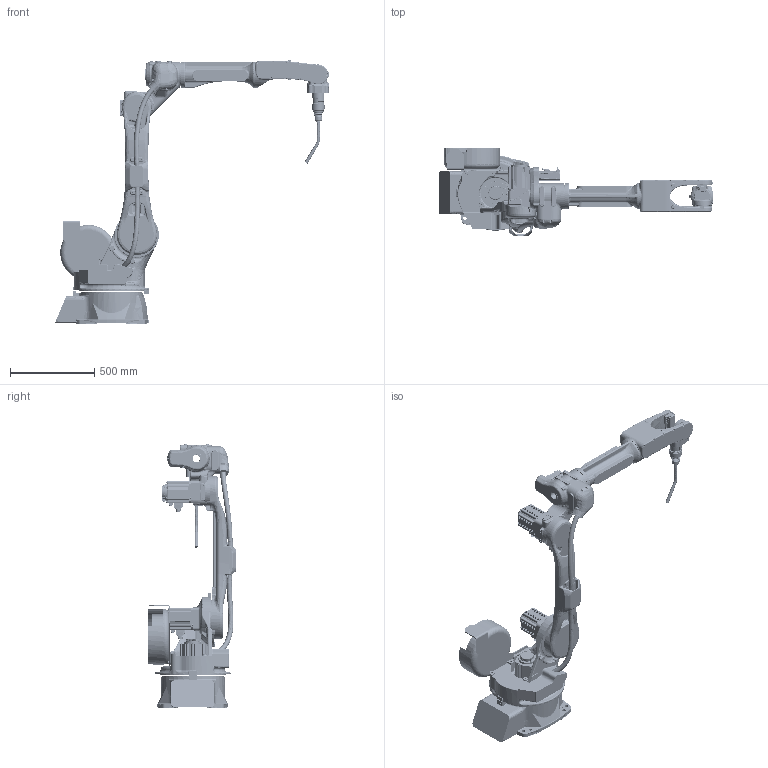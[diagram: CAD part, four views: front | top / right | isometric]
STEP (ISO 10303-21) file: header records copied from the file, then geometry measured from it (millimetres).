
FILE_DESCRIPTION(/* description */ (''),/* implementation_level */ '2;1');
FILE_NAME(/* name */ 'MR12-2010焊接-阿波罗焊枪.stp',/* time_stamp */ '2024-07-03T12:14:27+08:00',/* author */ (''),/* organization */ (''),/* preprocessor_version */ 'ST-DEVELOPER v16.7',/* originating_system */ 'SIEMENS PLM Software NX 1847',/* authorisation */ '');
FILE_SCHEMA (('AUTOMOTIVE_DESIGN { 1 0 10303 214 3 1 1 1 }'));
Products named in the file (1): JD33ECD99A0wud
Bounding box: 1626.68 x 525 x 1562.01 mm (x, y, z)
Volume: 80800361.7 mm3; surface area: 4912818.2 mm2
Topology: 22 solids, 78 shells, 11914 faces, 32980 edges, 21222 vertices
Faces by surface type: plane 4023, cylinder 3347, bspline 3131, torus 810, cone 413, extrusion 106, sphere 82, revolution 2
Full cylindrical faces by diameter (mm): 0.8 x12, 1 x36, 2.4 x12, 2.5 x6, 3 x19, 3.2 x16, 3.3 x17, 3.5 x4, 4 x2, 4.2 x17, 5 x28, 5.5 x31, 5.8 x12, 6 x25, 6.2 x1, 6.7 x24, 6.8 x4, 7 x12, 8 x4, 8.5 x32, 9 x12, 10 x24, 10.2 x3, 11.8 x6, 12 x2, 15.2 x6, 16 x8, 18 x2, 19 x3, 20 x2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
Entity records: 631397 total; most frequent: CARTESIAN_POINT 346012, ORIENTED_EDGE 62762, DIRECTION 40028, EDGE_CURVE 31383, VERTEX_POINT 21042, AXIS2_PLACEMENT_3D 15516, B_SPLINE_CURVE_WITH_KNOTS 14644, EDGE_LOOP 13243
